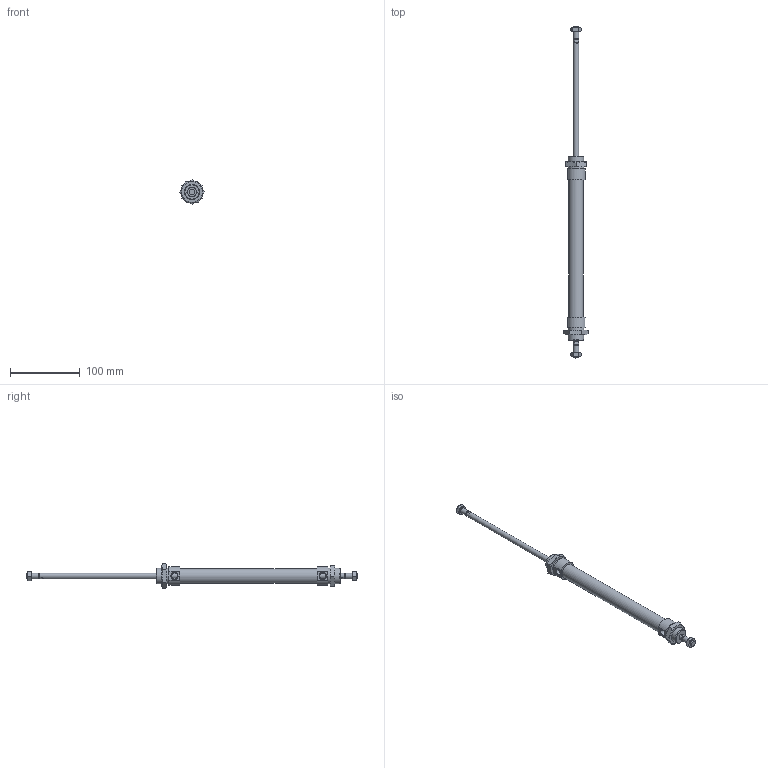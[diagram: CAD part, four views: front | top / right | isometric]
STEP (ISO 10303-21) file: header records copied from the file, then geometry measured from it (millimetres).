
FILE_DESCRIPTION((''),'2;1');
FILE_NAME('I:\Area Tecnica\Disegni\VARIE-3D\Componenti\1280\1282_##_####_#\1282_20_0160.iam.stp','2009-06-03T15:25:26',(''),(''),'Autodesk Inventor 2010','Autodesk Inventor 2010','');
FILE_SCHEMA(('AUTOMOTIVE_DESIGN { 1 0 10303 214 1 1 1 1 }'));
Length unit declared in the file: millimetre
Products named in the file (5): 1282_20_0160; C1282_20_160; S1282_20_160; 1200_20_05; 1200_20_06
Assembly tree (6 placements, depth 2):
  1282_20_0160
    C1282_20_160
    S1282_20_160
    1200_20_05  x2
    1200_20_06  x2
Bounding box: 34.64 x 476 x 34.64 mm (x, y, z)
Volume: 117189.3 mm3; surface area: 43510.2 mm2
Topology: 6 solids, 6 shells, 141 faces, 309 edges, 184 vertices
Faces by surface type: plane 60, cone 52, bspline 18, cylinder 11
Full cylindrical faces by diameter (mm): 6.5 x2, 8 x4, 21.2 x1, 22 x2
Entity records: 2813 total; most frequent: CARTESIAN_POINT 727, DIRECTION 386, ORIENTED_EDGE 352, EDGE_CURVE 176, AXIS2_PLACEMENT_3D 169, EDGE_LOOP 132, VERTEX_POINT 116, STYLED_ITEM 99
